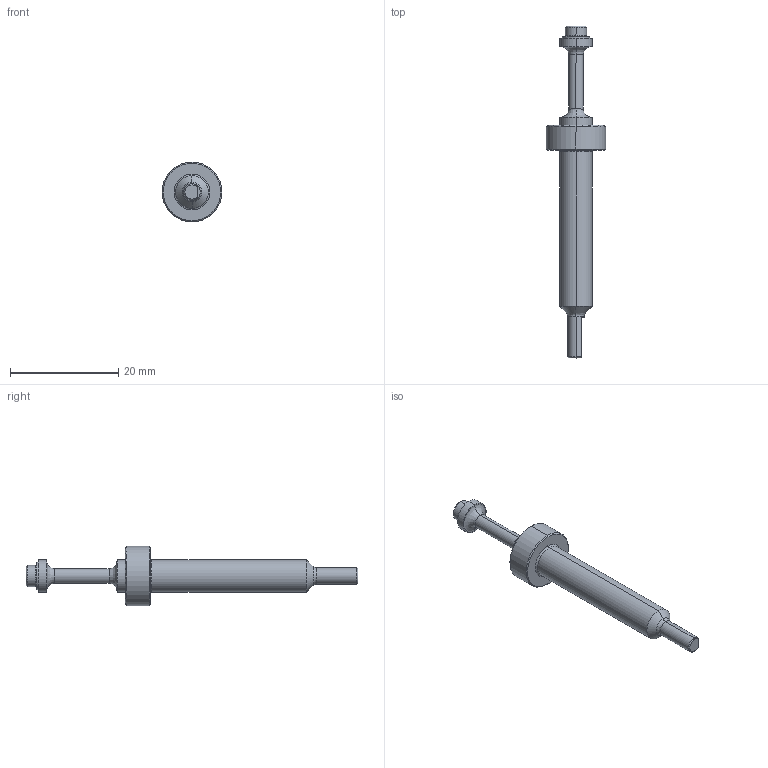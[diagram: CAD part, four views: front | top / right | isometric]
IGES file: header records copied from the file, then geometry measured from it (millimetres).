
Start section:  PTC IGES file: djsxs20-6cnm_soft.igs
Global section: file name: djsxs20-6cnm_soft.igs; native system: Creo Parametric by PTC Inc.; preprocessor: 2018260; author: GREEXTADU; organization: Unknown; date: 20181023.104550; units: millimetre
Bounding box: 11 x 61.2 x 11 mm (x, y, z)
Surface area: 1413.5 mm2 (no closed solid volume)
Topology: 0 solids, 0 shells, 61 faces, 254 edges, 254 vertices
Faces by surface type: revolution 41, bspline 20
